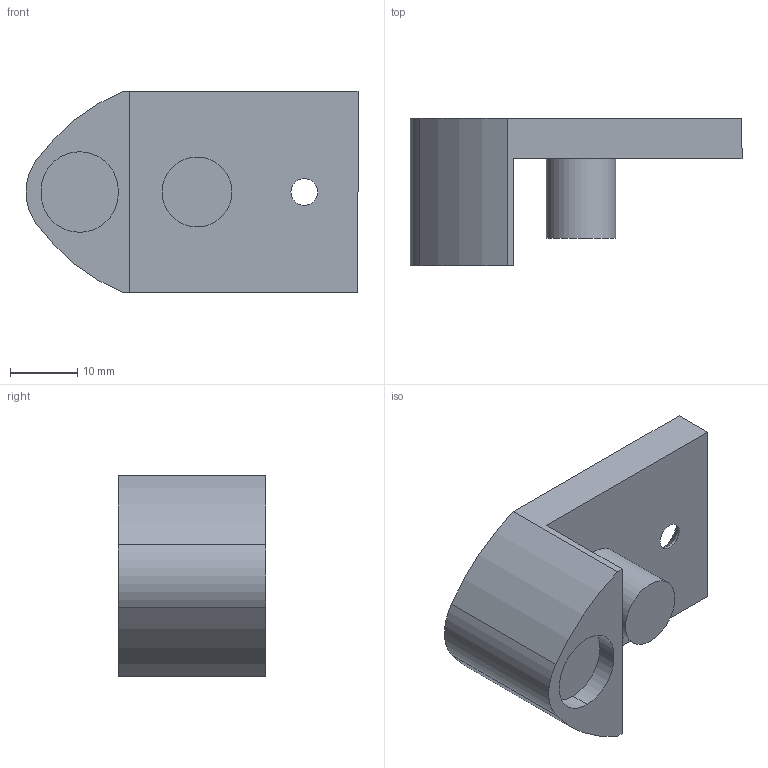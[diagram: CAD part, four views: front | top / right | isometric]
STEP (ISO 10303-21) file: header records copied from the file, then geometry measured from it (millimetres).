
FILE_DESCRIPTION (( 'STEP AP214' ), '1' );
FILE_NAME ('Halter_Rückwand_Einpressen_links_K760606300.step', '2010-09-07T13:19:44', ( 'grass' ), ( '' ), 'SwSTEP 2.0', 'SolidWorks 2010', '' );
FILE_SCHEMA (( 'AUTOMOTIVE_DESIGN' ));
Length unit declared in the file: millimetre
Products named in the file (1): Halter_Rückwand_Einpressen_links_K760606300
Bounding box: 49.5 x 22 x 30 mm (x, y, z)
Volume: 10657.8 mm3; surface area: 5504.9 mm2
Topology: 1 solids, 1 shells, 36 faces, 85 edges, 54 vertices
Faces by surface type: cylinder 16, plane 16, cone 4
Entity records: 1075 total; most frequent: DIRECTION 191, CARTESIAN_POINT 176, ORIENTED_EDGE 170, EDGE_CURVE 85, AXIS2_PLACEMENT_3D 69, VERTEX_POINT 54, LINE 53, VECTOR 53
